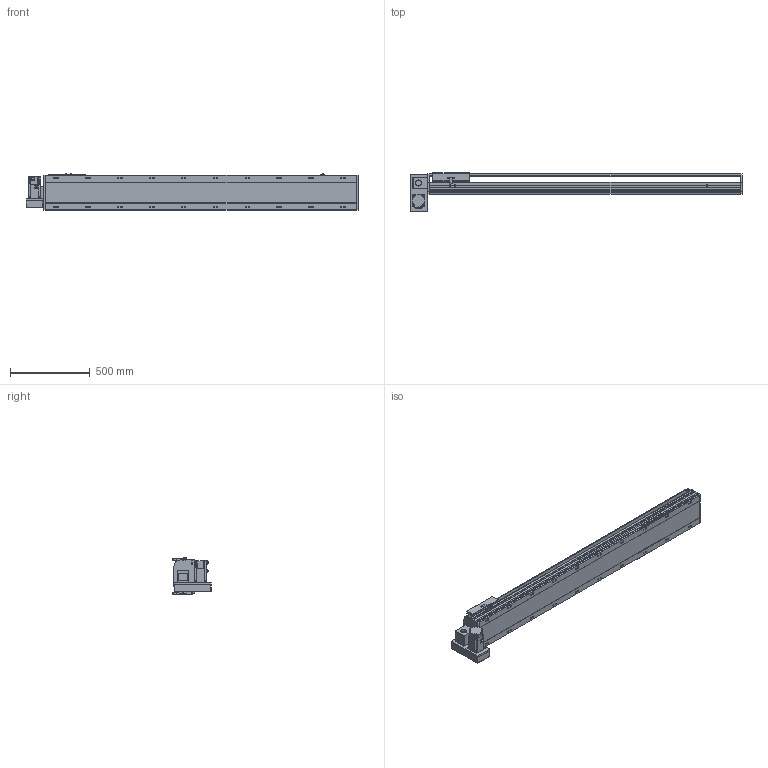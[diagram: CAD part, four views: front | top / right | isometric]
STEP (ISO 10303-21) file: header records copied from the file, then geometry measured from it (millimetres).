
FILE_DESCRIPTION(/* description */ ('STEP AP214'),/* implementation_level */ '2;1');
FILE_NAME(/* name */ 'PBS220-P40-S1600-LD-T75-C1-N(0)',/* time_stamp */ '2022-06-27T09:44:55+02:00',/* author */ ('License CC BY-ND 4.0'),/* organization */ ('CADENAS'),/* preprocessor_version */ 'ST-DEVELOPER v18.102',/* originating_system */ 'PARTsolutions',/* authorisation */ ' ');
FILE_SCHEMA (('AUTOMOTIVE_DESIGN {1 0 10303 214 3 1 1}'));
Length unit declared in the file: millimetre
Products named in the file (7): PBS220-P40-S1600-LD-T75-C1-N(0); PBS220_sensor; PBS220_plant; PBS220_sliser; T75-p1; PBS220T-LD_motors; PBS220-S1600()_body
Assembly tree (8 placements, depth 2):
  PBS220-P40-S1600-LD-T75-C1-N(0)
    PBS220_sensor  x3
    PBS220_plant
    PBS220_sliser
    T75-p1
    PBS220T-LD_motors
    PBS220-S1600()_body
Bounding box: 2084 x 239 x 238.5 mm (x, y, z)
Volume: 29542454.4 mm3; surface area: 2786476.7 mm2
Topology: 8 solids, 8 shells, 938 faces, 2452 edges, 1594 vertices
Faces by surface type: plane 606, cylinder 288, cone 44
Full cylindrical faces by diameter (mm): 2.013 x4, 4.5 x14, 4.917 x4, 6 x7, 6.647 x8, 8 x10, 8.376 x20, 8.5 x20, 10 x6, 14 x20, 38 x2, 40 x1, 70 x1
Entity records: 26252 total; most frequent: CARTESIAN_POINT 4624, DIRECTION 4563, ORIENTED_EDGE 4178, EDGE_CURVE 2089, AXIS2_PLACEMENT_3D 1607, VERTEX_POINT 1448, LINE 1349, VECTOR 1349
